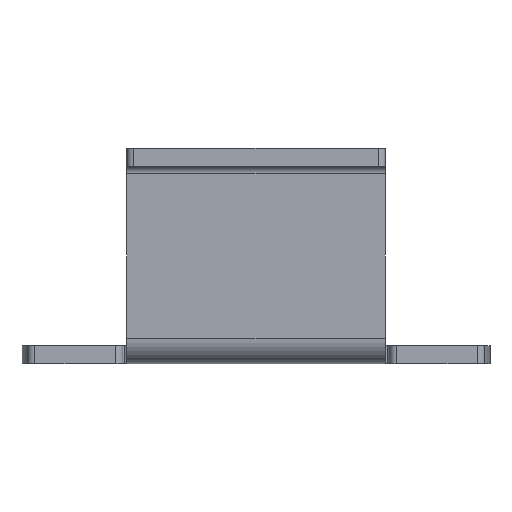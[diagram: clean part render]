
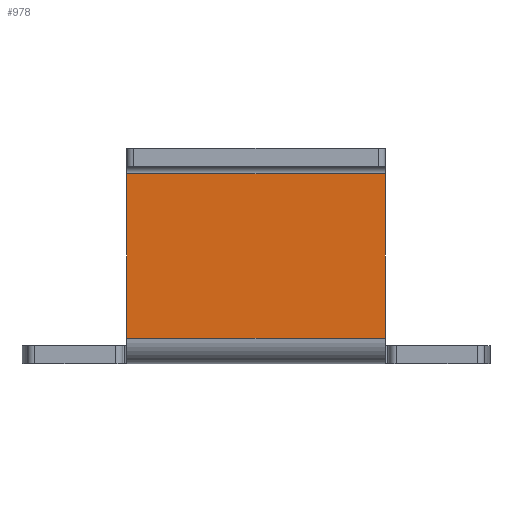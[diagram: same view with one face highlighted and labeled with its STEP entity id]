
A CAD part, left-side view. The second image highlights one B-rep face of the part: STEP entity #978.
In plain terms, the highlighted planar face has unit normal (-1, 0, 0).
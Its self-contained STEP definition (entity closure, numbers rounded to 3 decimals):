
#13 = LINE ( 'NONE', #2276, #960 ) ;
#53 = DIRECTION ( 'NONE',  ( 0., 0., 1. ) ) ;
#124 = DIRECTION ( 'NONE',  ( 0., -1., 0. ) ) ;
#146 = CARTESIAN_POINT ( 'NONE',  ( -34.9, -35.4, 52. ) ) ;
#184 = EDGE_CURVE ( 'NONE', #258, #1991, #13, .T. ) ;
#253 = ORIENTED_EDGE ( 'NONE', *, *, #184, .T. ) ;
#258 = VERTEX_POINT ( 'NONE', #659 ) ;
#270 = CARTESIAN_POINT ( 'NONE',  ( -34.9, 35.4, 52. ) ) ;
#277 = VECTOR ( 'NONE', #124, 1000. ) ;
#320 = VECTOR ( 'NONE', #53, 1000. ) ;
#349 = DIRECTION ( 'NONE',  ( 0., 0., -1. ) ) ;
#382 = DIRECTION ( 'NONE',  ( 0., -1., 0. ) ) ;
#385 = EDGE_LOOP ( 'NONE', ( #2278, #2245, #1594, #253 ) ) ;
#474 = VERTEX_POINT ( 'NONE', #904 ) ;
#521 = AXIS2_PLACEMENT_3D ( 'NONE', #2079, #1095, #349 ) ;
#597 = LINE ( 'NONE', #2145, #2059 ) ;
#659 = CARTESIAN_POINT ( 'NONE',  ( -34.9, 35.4, 7. ) ) ;
#851 = EDGE_CURVE ( 'NONE', #474, #950, #1805, .T. ) ;
#904 = CARTESIAN_POINT ( 'NONE',  ( -34.9, 35.4, 52. ) ) ;
#950 = VERTEX_POINT ( 'NONE', #146 ) ;
#960 = VECTOR ( 'NONE', #382, 1000. ) ;
#978 = ADVANCED_FACE ( 'NONE', ( #2055 ), #1305, .F. ) ;
#1095 = DIRECTION ( 'NONE',  ( 1., 0., 0. ) ) ;
#1234 = LINE ( 'NONE', #270, #320 ) ;
#1236 = CARTESIAN_POINT ( 'NONE',  ( -34.9, 35.4, 52. ) ) ;
#1291 = EDGE_CURVE ( 'NONE', #258, #474, #1234, .T. ) ;
#1305 = PLANE ( 'NONE',  #521 ) ;
#1594 = ORIENTED_EDGE ( 'NONE', *, *, #1291, .F. ) ;
#1805 = LINE ( 'NONE', #1236, #277 ) ;
#1931 = DIRECTION ( 'NONE',  ( 0., 0., 1. ) ) ;
#1991 = VERTEX_POINT ( 'NONE', #2246 ) ;
#2055 = FACE_OUTER_BOUND ( 'NONE', #385, .T. ) ;
#2059 = VECTOR ( 'NONE', #1931, 1000. ) ;
#2079 = CARTESIAN_POINT ( 'NONE',  ( -34.9, 35.4, 52. ) ) ;
#2114 = EDGE_CURVE ( 'NONE', #1991, #950, #597, .T. ) ;
#2145 = CARTESIAN_POINT ( 'NONE',  ( -34.9, -35.4, 52. ) ) ;
#2245 = ORIENTED_EDGE ( 'NONE', *, *, #851, .F. ) ;
#2246 = CARTESIAN_POINT ( 'NONE',  ( -34.9, -35.4, 7. ) ) ;
#2276 = CARTESIAN_POINT ( 'NONE',  ( -34.9, 35.4, 7. ) ) ;
#2278 = ORIENTED_EDGE ( 'NONE', *, *, #2114, .T. ) ;
